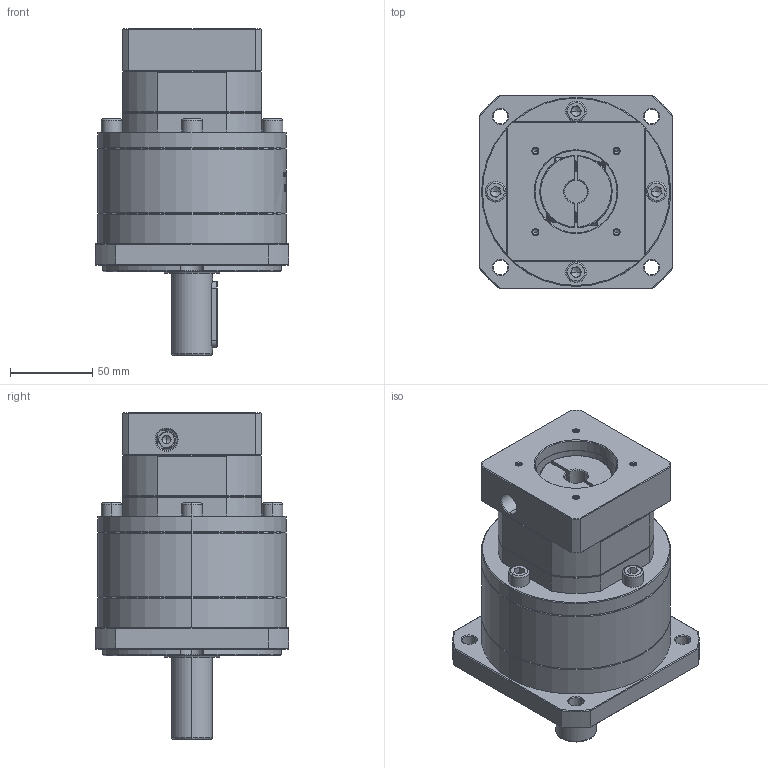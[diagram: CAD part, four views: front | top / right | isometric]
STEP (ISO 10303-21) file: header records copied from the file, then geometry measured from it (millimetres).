
FILE_DESCRIPTION (( 'STEP AP214' ), '1' );
FILE_NAME ('ZF120A-D25-L2-14-50-70-M4.step', '2023-03-07T14:59:54', ( '' ), ( 'Microsoft' ), 'SwSTEP 2.0', 'SolidWorks 2016', '' );
FILE_SCHEMA (( 'AUTOMOTIVE_DESIGN' ));
Length unit declared in the file: millimetre
Products named in the file (1): ZF120A-D25-L2-14-50-70-M4
Bounding box: 118 x 118 x 199 mm (x, y, z)
Volume: 1295063.7 mm3; surface area: 126241.3 mm2
Topology: 5 solids, 6 shells, 1934 faces, 5091 edges, 3249 vertices
Faces by surface type: plane 883, cylinder 394, bspline 336, cone 321
Entity records: 102663 total; most frequent: CARTESIAN_POINT 37539, ORIENTED_EDGE 10122, DIRECTION 7760, EDGE_CURVE 5061, VERTEX_POINT 3249, VECTOR 2732, LINE 2732, AXIS2_PLACEMENT_3D 2514
